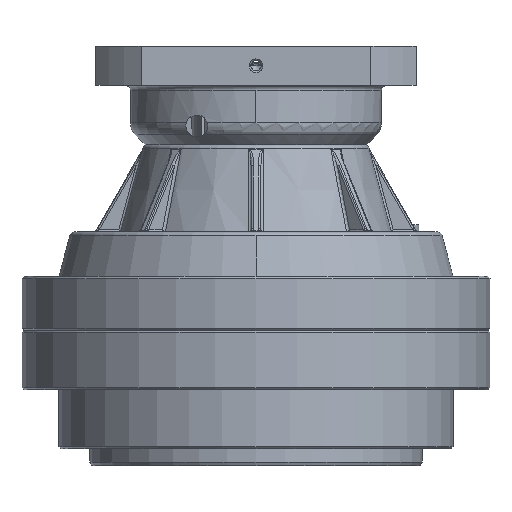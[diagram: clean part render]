
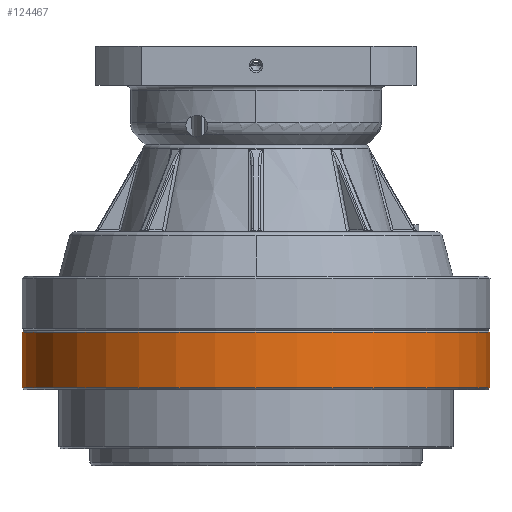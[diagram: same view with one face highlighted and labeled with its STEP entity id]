
A CAD part, front view. The second image highlights one B-rep face of the part: STEP entity #124467.
In plain terms, the highlighted cylindrical face has radius 95 mm (diameter 190 mm), a partial arc.
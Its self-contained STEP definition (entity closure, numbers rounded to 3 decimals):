
#1737 = ORIENTED_EDGE ( 'NONE', *, *, #82478, .F. ) ;
#3173 = VECTOR ( 'NONE', #103557, 1000. ) ;
#6392 = CARTESIAN_POINT ( 'NONE',  ( 95., 0., 23.2 ) ) ;
#6796 = CYLINDRICAL_SURFACE ( 'NONE', #64705, 95. ) ;
#7686 = LINE ( 'NONE', #130949, #51162 ) ;
#11157 = DIRECTION ( 'NONE',  ( 0., 0., -1. ) ) ;
#11840 = CARTESIAN_POINT ( 'NONE',  ( 0., 0., 0.8 ) ) ;
#16893 = CARTESIAN_POINT ( 'NONE',  ( 0., 0., 0. ) ) ;
#17555 = FACE_OUTER_BOUND ( 'NONE', #18187, .T. ) ;
#18187 = EDGE_LOOP ( 'NONE', ( #57478, #122462, #22442, #1737 ) ) ;
#19522 = DIRECTION ( 'NONE',  ( -1., 0., 0. ) ) ;
#21795 = AXIS2_PLACEMENT_3D ( 'NONE', #11840, #11157, #122350 ) ;
#22442 = ORIENTED_EDGE ( 'NONE', *, *, #53756, .F. ) ;
#24006 = CIRCLE ( 'NONE', #21795, 95. ) ;
#25254 = EDGE_CURVE ( 'NONE', #109475, #126069, #24006, .T. ) ;
#33813 = AXIS2_PLACEMENT_3D ( 'NONE', #49860, #62630, #19522 ) ;
#49860 = CARTESIAN_POINT ( 'NONE',  ( 0., 0., 23.2 ) ) ;
#51162 = VECTOR ( 'NONE', #120877, 1000. ) ;
#51767 = LINE ( 'NONE', #92750, #3173 ) ;
#53756 = EDGE_CURVE ( 'NONE', #106718, #130578, #113478, .T. ) ;
#57478 = ORIENTED_EDGE ( 'NONE', *, *, #25254, .F. ) ;
#59335 = DIRECTION ( 'NONE',  ( 0., 0., 1. ) ) ;
#62630 = DIRECTION ( 'NONE',  ( 0., 0., 1. ) ) ;
#64705 = AXIS2_PLACEMENT_3D ( 'NONE', #16893, #59335, #109239 ) ;
#64905 = CARTESIAN_POINT ( 'NONE',  ( -95., 0., 23.2 ) ) ;
#82478 = EDGE_CURVE ( 'NONE', #126069, #106718, #51767, .T. ) ;
#92750 = CARTESIAN_POINT ( 'NONE',  ( -95., 0., 0. ) ) ;
#95244 = CARTESIAN_POINT ( 'NONE',  ( -95., 0., 0.8 ) ) ;
#100131 = CARTESIAN_POINT ( 'NONE',  ( 95., 0., 0.8 ) ) ;
#103424 = EDGE_CURVE ( 'NONE', #109475, #130578, #7686, .T. ) ;
#103557 = DIRECTION ( 'NONE',  ( 0., 0., 1. ) ) ;
#106718 = VERTEX_POINT ( 'NONE', #64905 ) ;
#109239 = DIRECTION ( 'NONE',  ( -1., 0., 0. ) ) ;
#109475 = VERTEX_POINT ( 'NONE', #100131 ) ;
#113478 = CIRCLE ( 'NONE', #33813, 95. ) ;
#120877 = DIRECTION ( 'NONE',  ( 0., 0., 1. ) ) ;
#122350 = DIRECTION ( 'NONE',  ( -1., 0., 0. ) ) ;
#122462 = ORIENTED_EDGE ( 'NONE', *, *, #103424, .T. ) ;
#124467 = ADVANCED_FACE ( 'NONE', ( #17555 ), #6796, .T. ) ;
#126069 = VERTEX_POINT ( 'NONE', #95244 ) ;
#130578 = VERTEX_POINT ( 'NONE', #6392 ) ;
#130949 = CARTESIAN_POINT ( 'NONE',  ( 95., 0., 0. ) ) ;
